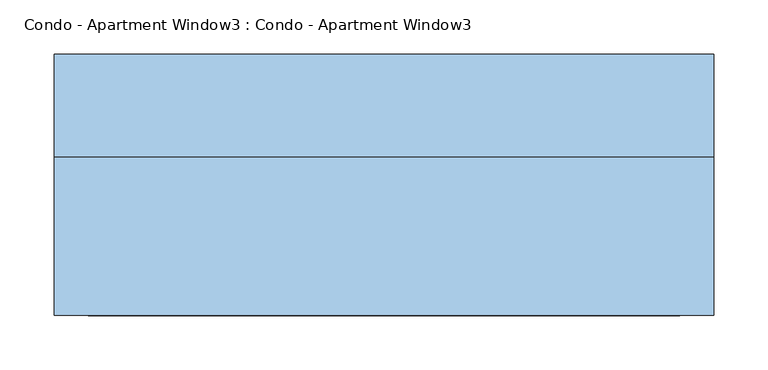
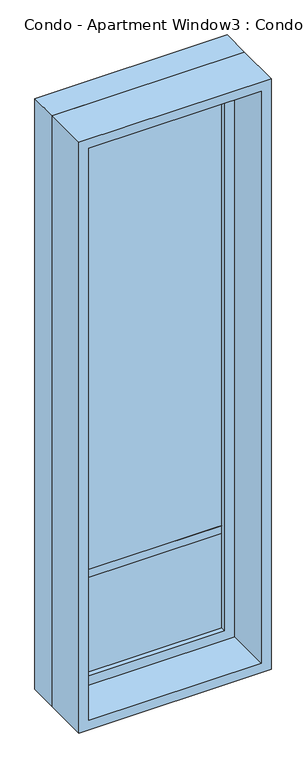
"""IFC4 building model written with IfcOpenShell, lengths in millimetres: window geometry, Condo - Apartment Window3 : Condo - Apartment Window3."""

from ifc_helpers import new_model, si_unit, frame, origin, place, context, project, spatial, polyline, outline, extrude, source, transform, mapped, element, save


def condo_apartment_window3_condo_apartment_window3_b97e7785(model_context):
    return source(origin(), model_context, "Body", "SweptSolid", [
        extrude(outline(polyline([(-279.4, 66.675), (203.2, 66.675), (203.2, 41.275), (-279.4, 41.275), (-279.4, 66.675)])), frame((0.0, 0.0, 673.1), z_axis=(0.0, 0.0, 1.0), x_axis=(1.0, 0.0, 0.0)), (0.0, 0.0, 1.0), 25.4),
        extrude(outline(polyline([(203.2, 41.275), (-279.4, 41.275), (-279.4, 53.975), (203.2, 53.975), (203.2, 41.275)])), frame((0.0, 0.0, 355.6), z_axis=(0.0, 0.0, 1.0), x_axis=(1.0, 0.0, 0.0)), (0.0, 0.0, 1.0), 1854.2),
        extrude(outline(polyline([(2254.25, -323.85), (311.15, -323.85), (311.15, 247.65), (2254.25, 247.65), (2254.25, -323.85)]), holes=[polyline([(2209.8, -279.4), (2209.8, 203.2), (355.6, 203.2), (355.6, -279.4), (2209.8, -279.4)])]), frame((0.0, 25.4, 0.0), z_axis=(0.0, 1.0, 0.0), x_axis=(0.0, 0.0, 1.0)), (0.0, 0.0, 1.0), 44.45),
        extrude(outline(polyline([(2273.3, -342.9), (292.1, -342.9), (292.1, 266.7), (2273.3, 266.7), (2273.3, -342.9)]), holes=[polyline([(2241.55, -311.15), (2241.55, 234.95), (323.85, 234.95), (323.85, -311.15), (2241.55, -311.15)])]), frame((0.0, -120.65, 0.0), z_axis=(0.0, 1.0, 0.0), x_axis=(0.0, 0.0, 1.0)), (0.0, 0.0, 1.0), 146.05),
        extrude(outline(polyline([(2273.3, 266.7), (2273.3, -342.9), (292.1, -342.9), (292.1, 266.7), (2273.3, 266.7)]), holes=[polyline([(2254.25, 247.65), (311.15, 247.65), (311.15, -323.85), (2254.25, -323.85), (2254.25, 247.65)])]), frame((0.0, 25.4, 0.0), z_axis=(0.0, 1.0, 0.0), x_axis=(0.0, 0.0, 1.0)), (0.0, 0.0, 1.0), 95.25),
    ])


if __name__ == "__main__":
    model = new_model("IFC4")
    model_context = context("Model", 3, world=origin())
    ifc_project = project(units=[si_unit("LENGTHUNIT", "METRE", prefix="MILLI")], contexts=[model_context])
    site = spatial("IfcSite", under=ifc_project)
    building = spatial("IfcBuilding", under=site)
    placement = place(None, origin())
    condo_apartment_window3_condo_apartment_window3_shape = condo_apartment_window3_condo_apartment_window3_b97e7785(model_context)
    element("IfcWindow", 1, ObjectType="Condo - Apartment Window3 : Condo - Apartment Window3", at=placement, inside=building, context=model_context, shape_type="MappedRepresentation", body=[
        mapped(condo_apartment_window3_condo_apartment_window3_shape, transform((0.0, 0.0, 0.0), x_axis=(1.0, 0.0, 0.0), y_axis=(0.0, 1.0, 0.0), z_axis=(0.0, 0.0, 1.0))),
    ])
    save(model, "model.ifc")
